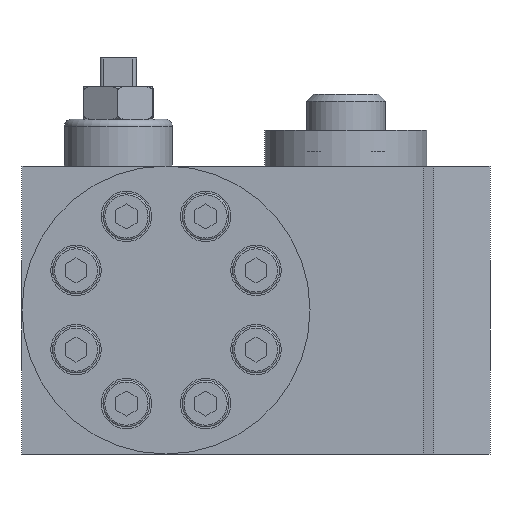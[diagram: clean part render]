
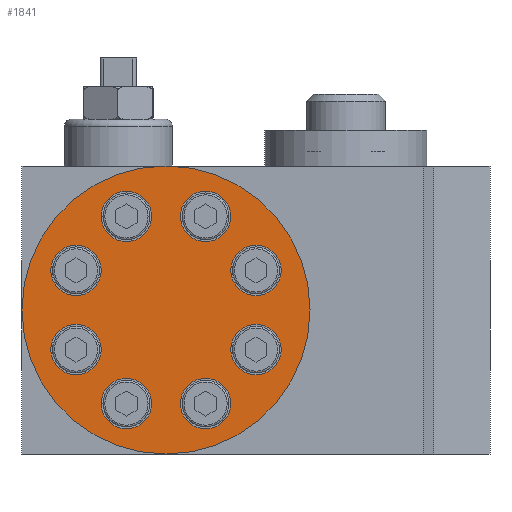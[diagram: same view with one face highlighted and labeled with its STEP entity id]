
A CAD part, left-side view. The second image highlights one B-rep face of the part: STEP entity #1841.
In plain terms, the highlighted planar face has unit normal (-1, 0, 0).
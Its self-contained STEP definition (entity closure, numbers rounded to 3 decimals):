
#488=PLANE('',#11768);
#1107=FACE_BOUND('',#3297,.T.);
#1108=FACE_BOUND('',#3298,.T.);
#1109=FACE_BOUND('',#3299,.T.);
#1110=FACE_BOUND('',#3300,.T.);
#1111=FACE_BOUND('',#3301,.T.);
#1112=FACE_BOUND('',#3302,.T.);
#1113=FACE_BOUND('',#3303,.T.);
#1114=FACE_BOUND('',#3304,.T.);
#1115=FACE_BOUND('',#3305,.T.);
#1841=ADVANCED_FACE('',(#1107,#1108,#1109,#1110,#1111,#1112,#1113,#1114,
#1115),#488,.F.);
#3297=EDGE_LOOP('',(#5789));
#3298=EDGE_LOOP('',(#5790));
#3299=EDGE_LOOP('',(#5791));
#3300=EDGE_LOOP('',(#5792));
#3301=EDGE_LOOP('',(#5793));
#3302=EDGE_LOOP('',(#5794));
#3303=EDGE_LOOP('',(#5795));
#3304=EDGE_LOOP('',(#5796));
#3305=EDGE_LOOP('',(#5797));
#4283=CIRCLE('',#11757,40.);
#4285=CIRCLE('',#11760,7.);
#4286=CIRCLE('',#11761,7.);
#4287=CIRCLE('',#11762,7.);
#4288=CIRCLE('',#11763,7.);
#4289=CIRCLE('',#11764,7.);
#4290=CIRCLE('',#11765,7.);
#4291=CIRCLE('',#11766,7.);
#4292=CIRCLE('',#11767,7.);
#5789=ORIENTED_EDGE('',*,*,#8923,.T.);
#5790=ORIENTED_EDGE('',*,*,#8924,.T.);
#5791=ORIENTED_EDGE('',*,*,#8925,.T.);
#5792=ORIENTED_EDGE('',*,*,#8926,.T.);
#5793=ORIENTED_EDGE('',*,*,#8927,.T.);
#5794=ORIENTED_EDGE('',*,*,#8928,.T.);
#5795=ORIENTED_EDGE('',*,*,#8929,.T.);
#5796=ORIENTED_EDGE('',*,*,#8930,.T.);
#5797=ORIENTED_EDGE('',*,*,#8921,.F.);
#7729=VERTEX_POINT('',#39402);
#7731=VERTEX_POINT('',#39407);
#7732=VERTEX_POINT('',#39409);
#7733=VERTEX_POINT('',#39411);
#7734=VERTEX_POINT('',#39413);
#7735=VERTEX_POINT('',#39415);
#7736=VERTEX_POINT('',#39417);
#7737=VERTEX_POINT('',#39419);
#7738=VERTEX_POINT('',#39421);
#8921=EDGE_CURVE('',#7729,#7729,#4283,.T.);
#8923=EDGE_CURVE('',#7731,#7731,#4285,.T.);
#8924=EDGE_CURVE('',#7732,#7732,#4286,.T.);
#8925=EDGE_CURVE('',#7733,#7733,#4287,.T.);
#8926=EDGE_CURVE('',#7734,#7734,#4288,.T.);
#8927=EDGE_CURVE('',#7735,#7735,#4289,.T.);
#8928=EDGE_CURVE('',#7736,#7736,#4290,.T.);
#8929=EDGE_CURVE('',#7737,#7737,#4291,.T.);
#8930=EDGE_CURVE('',#7738,#7738,#4292,.T.);
#11757=AXIS2_PLACEMENT_3D('',#39401,#13784,#13785);
#11760=AXIS2_PLACEMENT_3D('',#39406,#13790,#13791);
#11761=AXIS2_PLACEMENT_3D('',#39408,#13792,#13793);
#11762=AXIS2_PLACEMENT_3D('',#39410,#13794,#13795);
#11763=AXIS2_PLACEMENT_3D('',#39412,#13796,#13797);
#11764=AXIS2_PLACEMENT_3D('',#39414,#13798,#13799);
#11765=AXIS2_PLACEMENT_3D('',#39416,#13800,#13801);
#11766=AXIS2_PLACEMENT_3D('',#39418,#13802,#13803);
#11767=AXIS2_PLACEMENT_3D('',#39420,#13804,#13805);
#11768=AXIS2_PLACEMENT_3D('',#39422,#13806,#13807);
#13784=DIRECTION('',(1.,0.,0.));
#13785=DIRECTION('',(0.,1.,0.));
#13790=DIRECTION('',(1.,0.,0.));
#13791=DIRECTION('',(0.,0.,-1.));
#13792=DIRECTION('',(1.,0.,0.));
#13793=DIRECTION('',(0.,0.,-1.));
#13794=DIRECTION('',(1.,0.,0.));
#13795=DIRECTION('',(0.,0.,-1.));
#13796=DIRECTION('',(1.,0.,0.));
#13797=DIRECTION('',(0.,0.,-1.));
#13798=DIRECTION('',(1.,0.,0.));
#13799=DIRECTION('',(0.,0.,-1.));
#13800=DIRECTION('',(1.,0.,0.));
#13801=DIRECTION('',(0.,0.,-1.));
#13802=DIRECTION('',(1.,0.,0.));
#13803=DIRECTION('',(0.,0.,-1.));
#13804=DIRECTION('',(1.,0.,0.));
#13805=DIRECTION('',(0.,0.,-1.));
#13806=DIRECTION('',(1.,0.,0.));
#13807=DIRECTION('',(0.,0.,-1.));
#39401=CARTESIAN_POINT('',(-92.,48.,40.));
#39402=CARTESIAN_POINT('',(-92.,88.,40.));
#39406=CARTESIAN_POINT('',(-92.,59.,66.));
#39407=CARTESIAN_POINT('',(-92.,59.,59.));
#39408=CARTESIAN_POINT('',(-92.,59.,14.));
#39409=CARTESIAN_POINT('',(-92.,59.,7.));
#39410=CARTESIAN_POINT('',(-92.,37.,14.));
#39411=CARTESIAN_POINT('',(-92.,37.,7.));
#39412=CARTESIAN_POINT('',(-92.,37.,66.));
#39413=CARTESIAN_POINT('',(-92.,37.,59.));
#39414=CARTESIAN_POINT('',(-92.,73.,51.));
#39415=CARTESIAN_POINT('',(-92.,73.,44.));
#39416=CARTESIAN_POINT('',(-92.,73.,29.));
#39417=CARTESIAN_POINT('',(-92.,73.,22.));
#39418=CARTESIAN_POINT('',(-92.,23.,29.));
#39419=CARTESIAN_POINT('',(-92.,23.,22.));
#39420=CARTESIAN_POINT('',(-92.,23.,51.));
#39421=CARTESIAN_POINT('',(-92.,23.,44.));
#39422=CARTESIAN_POINT('',(-92.,48.,40.));
